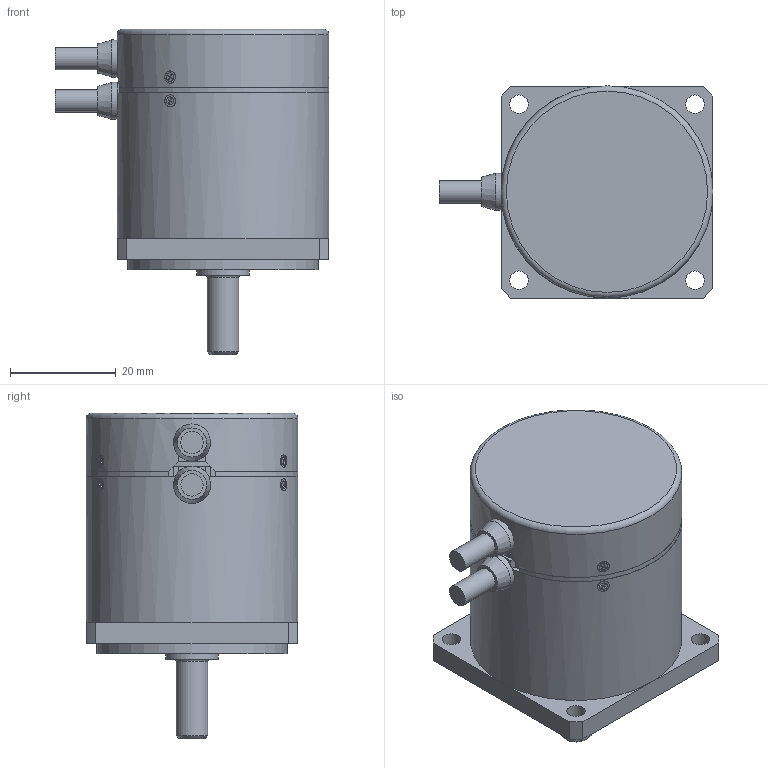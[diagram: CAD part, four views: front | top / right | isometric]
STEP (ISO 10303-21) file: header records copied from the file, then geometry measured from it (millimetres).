
FILE_DESCRIPTION(('STEP AP214'),'1');
FILE_NAME('MDS-4018.stp','2017-10-10T07:31:16',(' '),(' '),'Spatial InterOp 3D',' ',' ');
FILE_SCHEMA(('automotive_design'));
Length unit declared in the file: millimetre
Products named in the file (10): ケーブル; タッピングネジ M1.4x2.2; サラコネジ M1.4x2.5; ｱﾝｷﾞｭﾗﾍﾞｱﾘﾝｸﾞ MTA08-19; ブッシュ; カバー_S; ベース; シャフト_S4018; ケース_4018
Assembly tree (16 placements, depth 2):
  (unnamed)
    ケーブル  x2
    タッピングネジ M1.4x2.2  x3
    サラコネジ M1.4x2.5  x3
    ｱﾝｷﾞｭﾗﾍﾞｱﾘﾝｸﾞ MTA08-19  x2
    ブッシュ  x2
    カバー_S
    ベース
    シャフト_S4018
    ケース_4018
Bounding box: 51.7 x 40 x 61.4 mm (x, y, z)
Volume: 22499.7 mm3; surface area: 26490.2 mm2
Topology: 16 solids, 18 shells, 312 faces, 731 edges, 477 vertices
Faces by surface type: plane 190, cylinder 94, cone 25, torus 3
Full cylindrical faces by diameter (mm): 1.1 x6, 1.4 x12, 1.5 x3, 1.6 x9, 2.3 x6, 3.5 x4, 4.2 x4, 6 x1, 7 x2, 8 x4, 10 x1, 11 x4, 12 x2, 15 x2, 16 x4, 17 x2, 19 x4, 24 x1, 36 x1, 37 x1, 38 x1, 38.2 x1, 39 x2, 40 x2
Entity records: 7610 total; most frequent: CARTESIAN_POINT 1591, DIRECTION 891, ORIENTED_EDGE 720, EDGE_CURVE 360, AXIS2_PLACEMENT_3D 348, EDGE_LOOP 325, VERTEX_POINT 278, FACE_OUTER_BOUND 256
